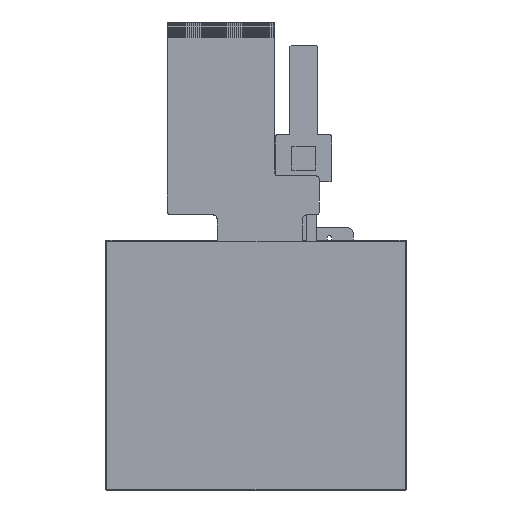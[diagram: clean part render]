
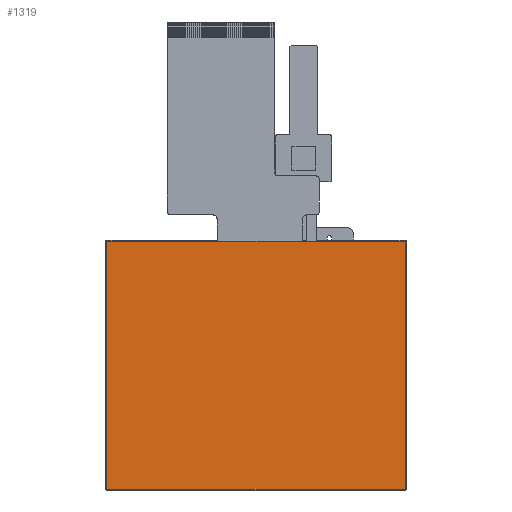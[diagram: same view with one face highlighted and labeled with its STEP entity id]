
A CAD part, front view. The second image highlights one B-rep face of the part: STEP entity #1319.
In plain terms, the highlighted planar face has unit normal (0, -1, 0).
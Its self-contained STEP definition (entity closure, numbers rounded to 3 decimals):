
#118 = ORIENTED_EDGE ( 'NONE', *, *, #13916, .F. ) ;
#145 = VECTOR ( 'NONE', #10995, 1000. ) ;
#381 = VERTEX_POINT ( 'NONE', #9508 ) ;
#688 = LINE ( 'NONE', #2503, #145 ) ;
#1319 = ADVANCED_FACE ( 'NONE', ( #7382 ), #11037, .F. ) ;
#1690 = CARTESIAN_POINT ( 'NONE',  ( 78.629, 66.787, 30.471 ) ) ;
#2503 = CARTESIAN_POINT ( 'NONE',  ( 2.229, 66.787, 62.171 ) ) ;
#2702 = CARTESIAN_POINT ( 'NONE',  ( 40.429, 66.787, 62.171 ) ) ;
#2800 = ORIENTED_EDGE ( 'NONE', *, *, #9259, .F. ) ;
#2816 = VERTEX_POINT ( 'NONE', #11712 ) ;
#3613 = DIRECTION ( 'NONE',  ( 1., 0., 0. ) ) ;
#4641 = CARTESIAN_POINT ( 'NONE',  ( 40.429, 66.787, 30.471 ) ) ;
#5882 = LINE ( 'NONE', #6822, #6373 ) ;
#6373 = VECTOR ( 'NONE', #3613, 1000. ) ;
#6822 = CARTESIAN_POINT ( 'NONE',  ( 40.429, 66.787, 93.871 ) ) ;
#6896 = VERTEX_POINT ( 'NONE', #1690 ) ;
#6954 = ORIENTED_EDGE ( 'NONE', *, *, #7164, .F. ) ;
#7164 = EDGE_CURVE ( 'NONE', #2816, #12698, #5882, .T. ) ;
#7307 = DIRECTION ( 'NONE',  ( 0., 0., 1. ) ) ;
#7310 = LINE ( 'NONE', #9338, #11121 ) ;
#7382 = FACE_OUTER_BOUND ( 'NONE', #10433, .T. ) ;
#8888 = EDGE_CURVE ( 'NONE', #12698, #6896, #7310, .T. ) ;
#8944 = AXIS2_PLACEMENT_3D ( 'NONE', #2702, #14688, #7307 ) ;
#9153 = ORIENTED_EDGE ( 'NONE', *, *, #8888, .F. ) ;
#9259 = EDGE_CURVE ( 'NONE', #6896, #381, #13106, .T. ) ;
#9317 = DIRECTION ( 'NONE',  ( -1., 0., 0. ) ) ;
#9338 = CARTESIAN_POINT ( 'NONE',  ( 78.629, 66.787, 62.171 ) ) ;
#9508 = CARTESIAN_POINT ( 'NONE',  ( 2.229, 66.787, 30.471 ) ) ;
#10433 = EDGE_LOOP ( 'NONE', ( #9153, #6954, #118, #2800 ) ) ;
#10995 = DIRECTION ( 'NONE',  ( 0., 0., 1. ) ) ;
#11037 = PLANE ( 'NONE',  #8944 ) ;
#11121 = VECTOR ( 'NONE', #14067, 1000. ) ;
#11712 = CARTESIAN_POINT ( 'NONE',  ( 2.229, 66.787, 93.871 ) ) ;
#11741 = CARTESIAN_POINT ( 'NONE',  ( 78.629, 66.787, 93.871 ) ) ;
#12362 = VECTOR ( 'NONE', #9317, 1000. ) ;
#12698 = VERTEX_POINT ( 'NONE', #11741 ) ;
#13106 = LINE ( 'NONE', #4641, #12362 ) ;
#13916 = EDGE_CURVE ( 'NONE', #381, #2816, #688, .T. ) ;
#14067 = DIRECTION ( 'NONE',  ( 0., 0., -1. ) ) ;
#14688 = DIRECTION ( 'NONE',  ( 0., 1., 0. ) ) ;
